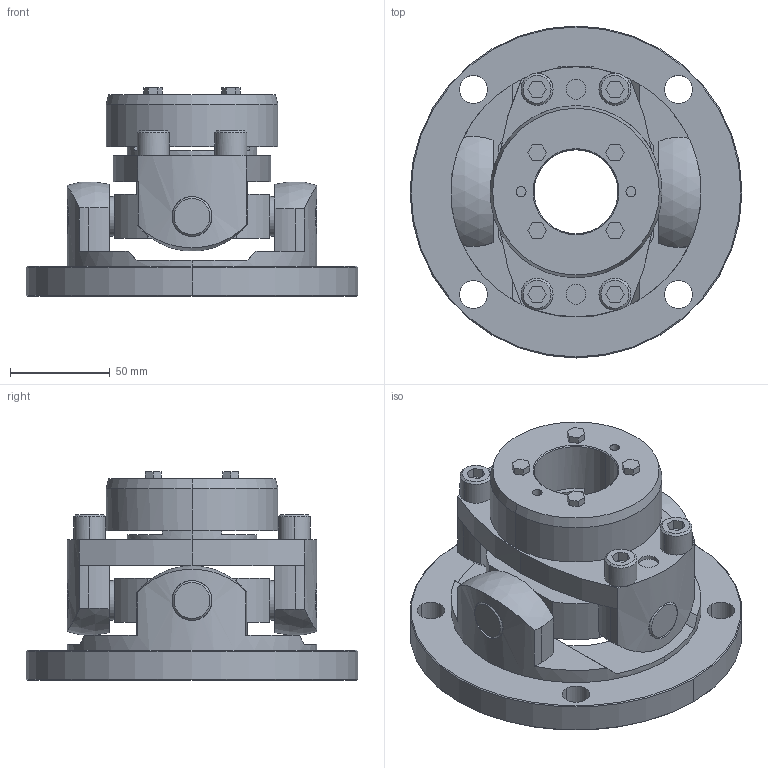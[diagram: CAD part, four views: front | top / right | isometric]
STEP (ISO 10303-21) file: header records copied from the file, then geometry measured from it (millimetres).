
FILE_DESCRIPTION((''),'2;1');
FILE_NAME('UCNF-125T7-42.stp','2011-09-22T08:29:26',(''),(''),'AutoCAD STEP 2000i','AutoCAD 2000i',', , ');
FILE_SCHEMA(('CONFIG_CONTROL_DESIGN'));
Length unit declared in the file: millimetre
Products named in the file (8): UCNF-125T7-40; 忣兜1; UCN125T7-T040; UCN125T7-T035; UCNF-12502; UCN125T7-T032-1; UCN125T7-T032; UCN125-SEN
Assembly tree (7 placements, depth 2):
  UCNF-125T7-40
    忣兜1
    UCN125T7-T040
    UCN125T7-T035
    UCNF-12502
    UCN125T7-T032-1
    UCN125T7-T032
    UCN125-SEN
Bounding box: 166 x 166 x 104.5 mm (x, y, z)
Volume: 710970.5 mm3; surface area: 130592.2 mm2
Topology: 1 solids, 1 shells, 284 faces, 711 edges, 463 vertices
Faces by surface type: plane 138, cylinder 104, cone 38, sphere 4
Entity records: 9233 total; most frequent: CARTESIAN_POINT 1990, DIRECTION 1550, ORIENTED_EDGE 1422, EDGE_CURVE 711, AXIS2_PLACEMENT_3D 579, VERTEX_POINT 463, VECTOR 392, LINE 392
